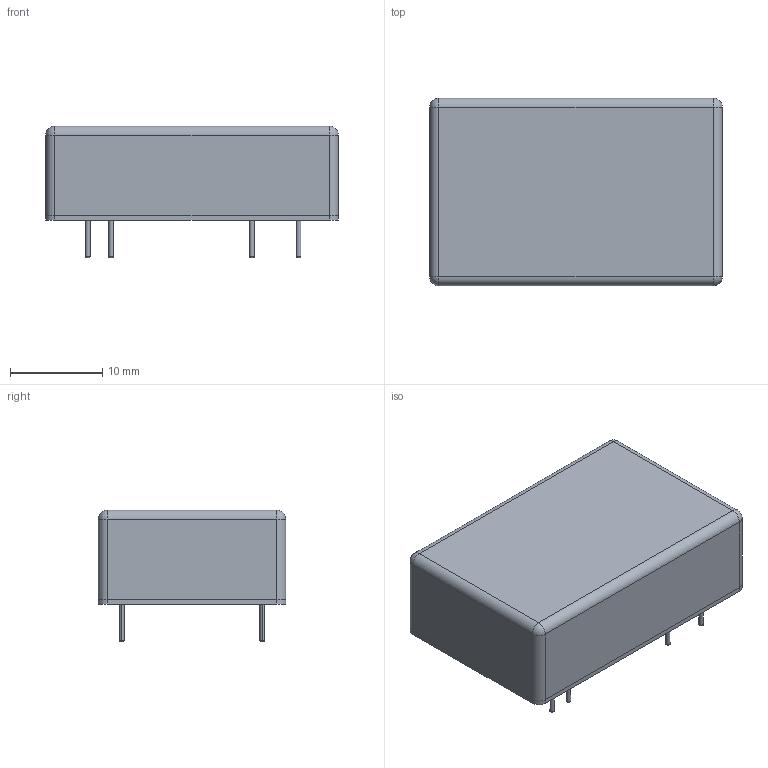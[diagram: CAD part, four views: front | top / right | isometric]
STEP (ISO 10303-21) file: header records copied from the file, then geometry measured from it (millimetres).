
FILE_DESCRIPTION (( 'STEP AP214' ), '1' );
FILE_NAME ('ten5wi-dual.STEP', '2015-11-12T08:50:19', ( '' ), ( '' ), 'SwSTEP 2.0', 'SolidWorks 2013', '' );
FILE_SCHEMA (( 'AUTOMOTIVE_DESIGN' ));
Length unit declared in the file: millimetre
Products named in the file (11): Pin23; Pin22; Pin14; Pin11; Pin9; Pin16; Pin3; Pin2; Base; Case; ten5wi-dual
Assembly tree (10 placements, depth 2):
  ten5wi-dual
    Case
    Base
    Pin2
    Pin3
    Pin16
    Pin9
    Pin11
    Pin14
    Pin22
    Pin23
Bounding box: 31.75 x 20.32 x 14.3 mm (x, y, z)
Volume: 6556.6 mm3; surface area: 3631.5 mm2
Topology: 10 solids, 10 shells, 76 faces, 144 edges, 84 vertices
Faces by surface type: plane 28, cylinder 28, torus 16, sphere 4
Entity records: 3362 total; most frequent: CARTESIAN_POINT 513, DIRECTION 390, ORIENTED_EDGE 280, AXIS2_PLACEMENT_3D 169, EDGE_CURVE 140, UNCERTAINTY_MEASURE_WITH_UNIT 107, MECHANICAL_DESIGN_GEOMETRIC_PRESENTATION_REPRESENTATION 96, SURFACE_SIDE_STYLE 96
